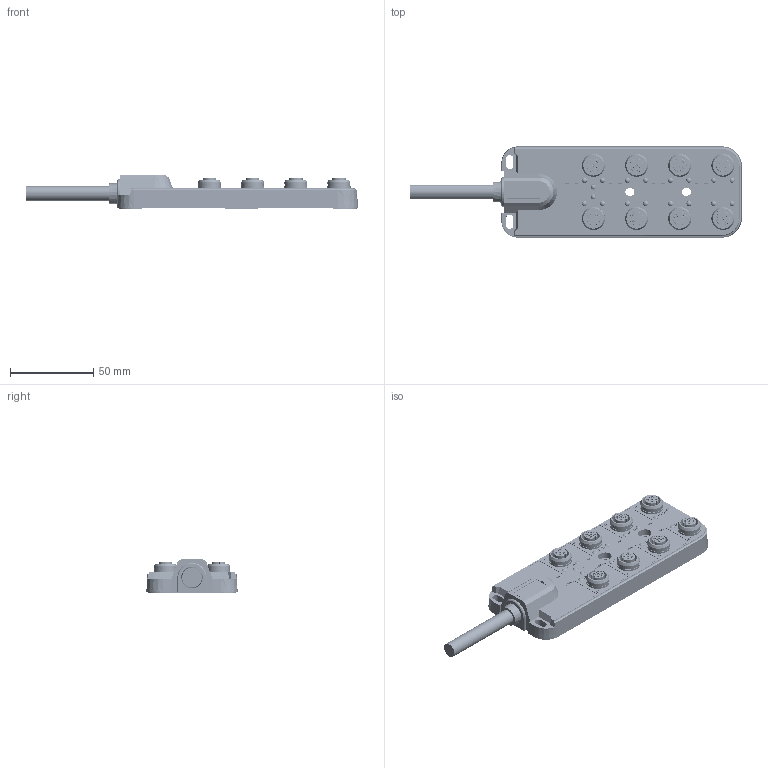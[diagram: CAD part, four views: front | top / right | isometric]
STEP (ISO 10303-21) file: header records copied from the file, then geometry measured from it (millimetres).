
FILE_DESCRIPTION(/* description */ (''),/* implementation_level */ '2;1');
FILE_NAME(/* name */ 'CAD_ESP4-12-2P-x2_V0.stp',/* time_stamp */ '2023-05-31T10:08:54+08:00',/* author */ (''),/* organization */ (''),/* preprocessor_version */ 'ST-DEVELOPER v16',/* originating_system */ 'SIEMENS PLM Software NX 10.0',/* authorisation */ '');
FILE_SCHEMA (('AP203_CONFIGURATION_CONTROLLED_3D_DESIGN_OF_MECHANICAL_PARTS_AND_ASSEMBLIES_MIM_LF { 1 0 10303 403 2 1 2}'));
Products named in the file (1): chan323C54B6i0aw
Bounding box: 200 x 55 x 20.5 mm (x, y, z)
Volume: 84689.2 mm3; surface area: 67761.8 mm2
Topology: 78 solids, 82 shells, 6566 faces, 17990 edges, 11994 vertices
Faces by surface type: plane 5187, cylinder 665, bspline 458, cone 196, torus 42, sphere 18
Full cylindrical faces by diameter (mm): 0.8 x40, 1.4 x40, 1.6 x120, 1.7 x40, 1.76 x80, 2 x40, 2.2 x4, 4.3 x18, 5.5 x4, 6 x2, 8.3 x8, 8.9 x1, 10.7 x16, 12.5 x2, 13.463 x8, 13.85 x8, 14 x16, 15.5 x16
Entity records: 234302 total; most frequent: CARTESIAN_POINT 75280, ORIENTED_EDGE 33890, DIRECTION 28943, EDGE_CURVE 16945, LINE 13597, VECTOR 13597, VERTEX_POINT 11631, EDGE_LOOP 7806
